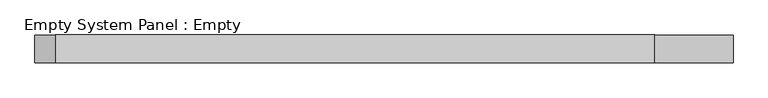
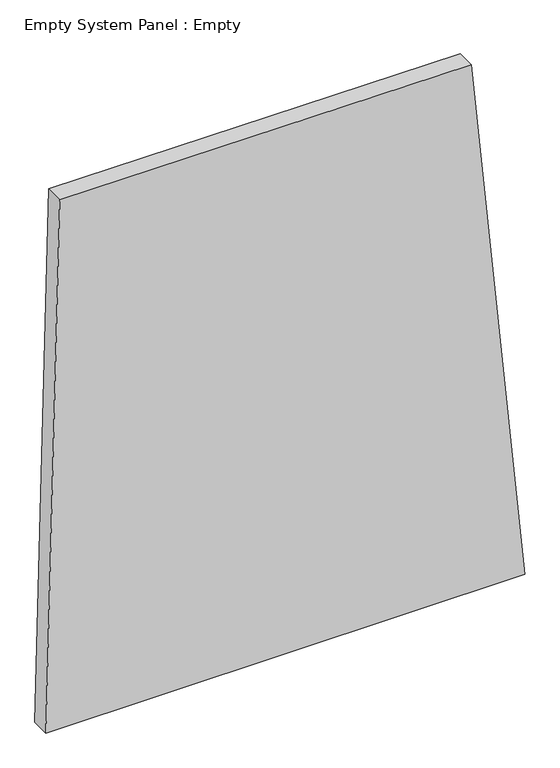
"""IFC4 building model written with IfcOpenShell, lengths in millimetres: plate geometry, Empty System Panel : Empty."""

from ifc_helpers import new_model, si_unit, frame, origin, place, context, project, spatial, polyline, outline, extrude, source, transform, mapped, element, save


def empty_system_panel_empty_272c744b(model_context):
    return source(origin(), model_context, "Body", "SweptSolid", [
        extrude(outline(polyline([(0.0, -1279.223662), (0.0, 1279.223662), (2979.0574404, 992.14353), (2985.3184357, -1205.2085987), (0.0, -1279.223662)])), frame((0.0, -50.8, 0.0), z_axis=(0.0, 1.0, 0.0), x_axis=(0.0, 0.0, 1.0)), (0.0, 0.0, 1.0), 101.6),
    ])


if __name__ == "__main__":
    model = new_model("IFC4")
    model_context = context("Model", 3, world=origin())
    ifc_project = project(units=[si_unit("LENGTHUNIT", "METRE", prefix="MILLI")], contexts=[model_context])
    site = spatial("IfcSite", under=ifc_project)
    building = spatial("IfcBuilding", under=site)
    placement = place(None, origin())
    empty_system_panel_empty_shape = empty_system_panel_empty_272c744b(model_context)
    element("IfcPlate", 1, ObjectType="Empty System Panel : Empty", at=placement, inside=building, context=model_context, shape_type="MappedRepresentation", body=[
        mapped(empty_system_panel_empty_shape, transform((0.0, 0.0, 0.0), x_axis=(1.0, 0.0, 0.0), y_axis=(0.0, 1.0, 0.0), z_axis=(0.0, 0.0, 1.0))),
    ])
    save(model, "model.ifc")
